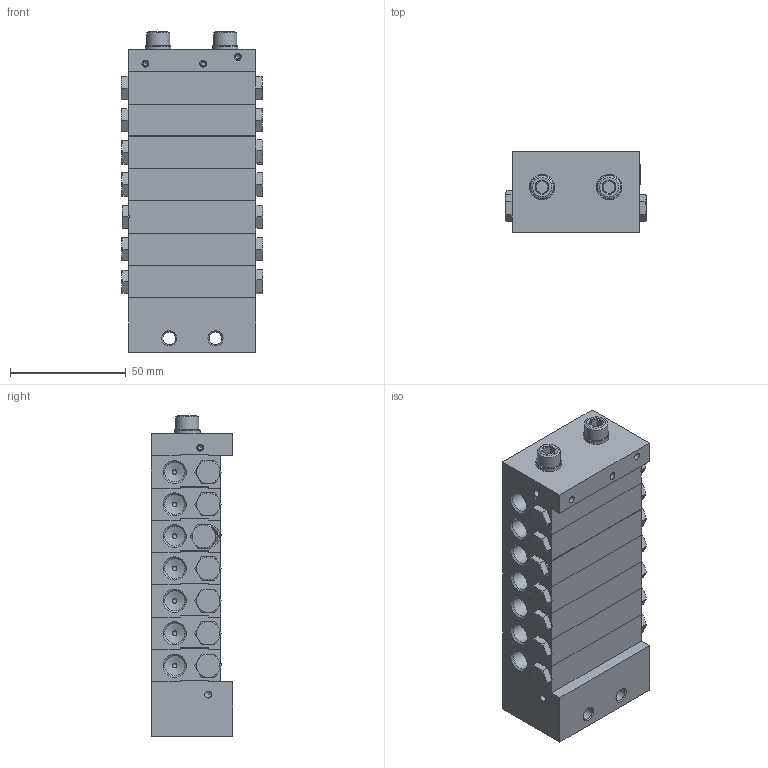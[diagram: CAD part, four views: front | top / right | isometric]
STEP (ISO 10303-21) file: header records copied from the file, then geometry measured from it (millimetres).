
FILE_DESCRIPTION (( 'STEP AP214' ), '1' );
FILE_NAME ('STW_XV_13_Auslässe.STEP', '2025-09-16T13:39:21', ( '' ), ( '' ), 'SwSTEP 2.0', 'SolidWorks 2022', '' );
FILE_SCHEMA (( 'AUTOMOTIVE_DESIGN' ));
Length unit declared in the file: millimetre
Products named in the file (11): STW_XV_ENGANG; Verschlussstopfen_1_8; O_RING_3X1; STW_XV_MITTEL_1; STW_XV_Verbindungsstopen; STW_XV_13_Auslässe; U_Scheibe_6; STW_XV_Kolbenanschlag; STW_XV_END; M6X65_DIN_912
Assembly tree (53 placements, depth 2):
  STW_XV_13_Auslässe
    STW_XV_ENGANG
    O_RING_3X1  x4
    STW_XV_MITTEL_1  x7
    STW_XV_END
    Verschlussstopfen_1_8  x14
    STW_XV_Kolbenanschlag  x14
    STW_XV_Verbindungsstopen  x7
    M6X65_DIN_912  x2
    U_Scheibe_6  x2
    Verschlussstopfen_1_8
Bounding box: 61.32 x 35.03 x 138.48 mm (x, y, z)
Volume: 207496.5 mm3; surface area: 101450.7 mm2
Topology: 53 solids, 53 shells, 2055 faces, 5397 edges, 3446 vertices
Faces by surface type: plane 961, cylinder 563, cone 417, bspline 96, torus 18
Full cylindrical faces by diameter (mm): 2 x185, 3 x7, 5 x74, 5.5 x2, 5.9 x2, 6 x2, 6.2 x16, 6.4 x2, 6.5 x14, 7 x14, 8 x14, 8.4 x7, 8.6 x35, 9 x15, 9.7 x15, 9.73 x7, 10 x16, 11 x2, 15 x1
Entity records: 34751 total; most frequent: CARTESIAN_POINT 15298, ORIENTED_EDGE 2596, DIRECTION 2215, EDGE_CURVE 1298, VERTEX_POINT 919, EDGE_LOOP 845, AXIS2_PLACEMENT_3D 763, VECTOR 689
